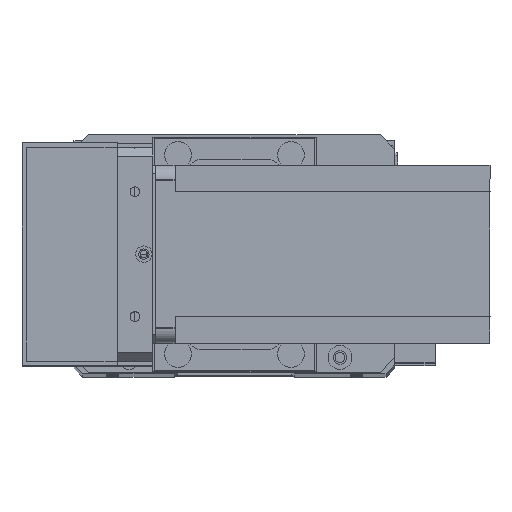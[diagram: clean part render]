
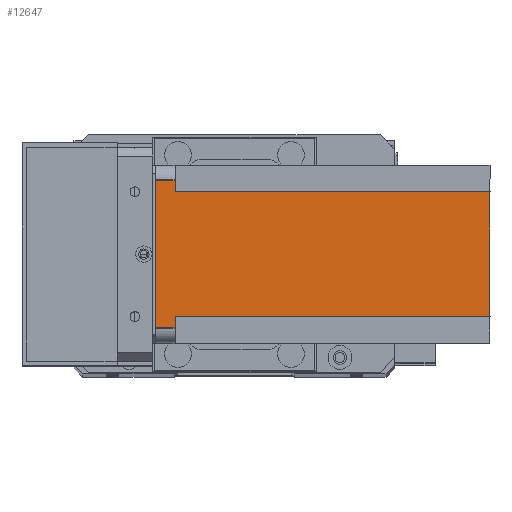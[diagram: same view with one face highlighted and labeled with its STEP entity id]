
A CAD part, top view. The second image highlights one B-rep face of the part: STEP entity #12647.
In plain terms, the highlighted planar face has unit normal (0, 0, 1) as drawn and (1, 0, 0) by its records, which use the part's own axes.
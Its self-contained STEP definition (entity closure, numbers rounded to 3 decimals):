
#12 = CARTESIAN_POINT ( 'NONE',  ( 60., 9., -112.5 ) ) ;
#773 = ORIENTED_EDGE ( 'NONE', *, *, #4853, .T. ) ;
#885 = CARTESIAN_POINT ( 'NONE',  ( 60., 60., -6.5 ) ) ;
#889 = LINE ( 'NONE', #17350, #23664 ) ;
#1703 = ORIENTED_EDGE ( 'NONE', *, *, #7669, .F. ) ;
#1961 = DIRECTION ( 'NONE',  ( 0., 1., 0. ) ) ;
#2294 = DIRECTION ( 'NONE',  ( 0., -1., 0. ) ) ;
#2436 = VECTOR ( 'NONE', #21353, 1000. ) ;
#2796 = CARTESIAN_POINT ( 'NONE',  ( 60., 55., -6.5 ) ) ;
#3233 = CARTESIAN_POINT ( 'NONE',  ( 60., 9., -112.5 ) ) ;
#3405 = ORIENTED_EDGE ( 'NONE', *, *, #27158, .F. ) ;
#3546 = EDGE_LOOP ( 'NONE', ( #1703, #773, #17402, #13223, #3405, #16180, #28874, #21485 ) ) ;
#4180 = DIRECTION ( 'NONE',  ( 0., 1., 0. ) ) ;
#4853 = EDGE_CURVE ( 'NONE', #27304, #24599, #23616, .T. ) ;
#5600 = DIRECTION ( 'NONE',  ( 0., 0., -1. ) ) ;
#6447 = AXIS2_PLACEMENT_3D ( 'NONE', #17804, #10901, #4180 ) ;
#6523 = EDGE_CURVE ( 'NONE', #29142, #12720, #11723, .T. ) ;
#7529 = VECTOR ( 'NONE', #16838, 1000. ) ;
#7669 = EDGE_CURVE ( 'NONE', #27304, #22810, #8463, .T. ) ;
#7979 = CARTESIAN_POINT ( 'NONE',  ( 60., 5., -112.5 ) ) ;
#8004 = VECTOR ( 'NONE', #22134, 1000. ) ;
#8462 = VERTEX_POINT ( 'NONE', #15244 ) ;
#8463 = LINE ( 'NONE', #885, #2436 ) ;
#8939 = CARTESIAN_POINT ( 'NONE',  ( 60., 0., -6.5 ) ) ;
#9030 = VERTEX_POINT ( 'NONE', #11124 ) ;
#9890 = CARTESIAN_POINT ( 'NONE',  ( 60., 55., 0. ) ) ;
#10250 = EDGE_CURVE ( 'NONE', #26843, #8462, #12741, .T. ) ;
#10901 = DIRECTION ( 'NONE',  ( 1., 0., 0. ) ) ;
#11124 = CARTESIAN_POINT ( 'NONE',  ( 60., 9., -6.5 ) ) ;
#11176 = VECTOR ( 'NONE', #2294, 1000. ) ;
#11392 = CARTESIAN_POINT ( 'NONE',  ( 60., 55., -112.5 ) ) ;
#11544 = DIRECTION ( 'NONE',  ( 0., 0., 1. ) ) ;
#11723 = LINE ( 'NONE', #7979, #17091 ) ;
#12647 = ADVANCED_FACE ( 'NONE', ( #27222 ), #17699, .T. ) ;
#12720 = VERTEX_POINT ( 'NONE', #17989 ) ;
#12741 = LINE ( 'NONE', #20050, #13467 ) ;
#12947 = CARTESIAN_POINT ( 'NONE',  ( 60., 51., -112.5 ) ) ;
#13223 = ORIENTED_EDGE ( 'NONE', *, *, #6523, .T. ) ;
#13467 = VECTOR ( 'NONE', #1961, 1000. ) ;
#14316 = LINE ( 'NONE', #3233, #7529 ) ;
#14621 = EDGE_CURVE ( 'NONE', #26843, #9030, #14316, .T. ) ;
#15244 = CARTESIAN_POINT ( 'NONE',  ( 60., 51., -112.5 ) ) ;
#16180 = ORIENTED_EDGE ( 'NONE', *, *, #14621, .F. ) ;
#16766 = CARTESIAN_POINT ( 'NONE',  ( 60., 51., -6.5 ) ) ;
#16838 = DIRECTION ( 'NONE',  ( 0., 0., 1. ) ) ;
#17091 = VECTOR ( 'NONE', #5600, 1000. ) ;
#17249 = CARTESIAN_POINT ( 'NONE',  ( 60., 5., 0. ) ) ;
#17350 = CARTESIAN_POINT ( 'NONE',  ( 60., 0., 0. ) ) ;
#17402 = ORIENTED_EDGE ( 'NONE', *, *, #29120, .F. ) ;
#17699 = PLANE ( 'NONE',  #6447 ) ;
#17804 = CARTESIAN_POINT ( 'NONE',  ( 60., 0., -112.5 ) ) ;
#17989 = CARTESIAN_POINT ( 'NONE',  ( 60., 5., -6.5 ) ) ;
#19641 = DIRECTION ( 'NONE',  ( 0., 1., 0. ) ) ;
#20050 = CARTESIAN_POINT ( 'NONE',  ( 60., 0., -112.5 ) ) ;
#20113 = LINE ( 'NONE', #12947, #8004 ) ;
#21152 = EDGE_CURVE ( 'NONE', #22810, #8462, #20113, .T. ) ;
#21353 = DIRECTION ( 'NONE',  ( 0., -1., 0. ) ) ;
#21485 = ORIENTED_EDGE ( 'NONE', *, *, #21152, .F. ) ;
#21885 = LINE ( 'NONE', #8939, #11176 ) ;
#22134 = DIRECTION ( 'NONE',  ( 0., 0., -1. ) ) ;
#22810 = VERTEX_POINT ( 'NONE', #16766 ) ;
#23616 = LINE ( 'NONE', #11392, #28244 ) ;
#23664 = VECTOR ( 'NONE', #19641, 1000. ) ;
#24599 = VERTEX_POINT ( 'NONE', #9890 ) ;
#26843 = VERTEX_POINT ( 'NONE', #12 ) ;
#27158 = EDGE_CURVE ( 'NONE', #9030, #12720, #21885, .T. ) ;
#27222 = FACE_OUTER_BOUND ( 'NONE', #3546, .T. ) ;
#27304 = VERTEX_POINT ( 'NONE', #2796 ) ;
#28244 = VECTOR ( 'NONE', #11544, 1000. ) ;
#28874 = ORIENTED_EDGE ( 'NONE', *, *, #10250, .T. ) ;
#29120 = EDGE_CURVE ( 'NONE', #29142, #24599, #889, .T. ) ;
#29142 = VERTEX_POINT ( 'NONE', #17249 ) ;
